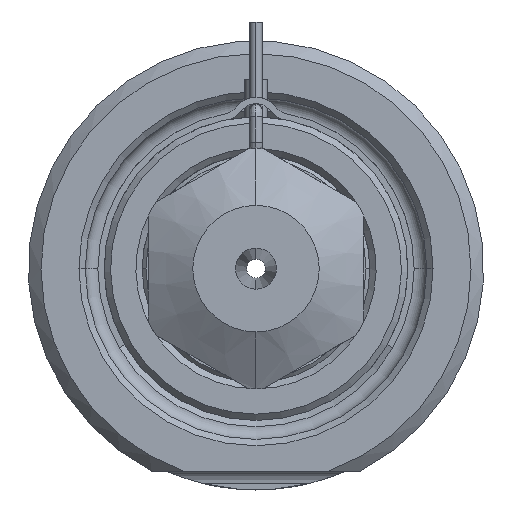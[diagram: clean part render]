
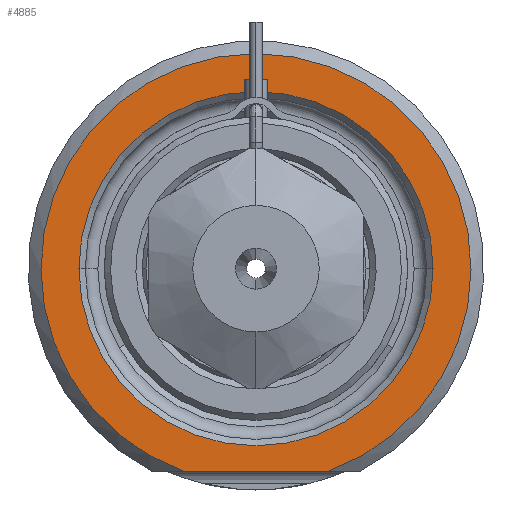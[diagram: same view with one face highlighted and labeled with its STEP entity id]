
A CAD part, front view. The second image highlights one B-rep face of the part: STEP entity #4885.
In plain terms, the highlighted planar face has unit normal (0, -1, 0).
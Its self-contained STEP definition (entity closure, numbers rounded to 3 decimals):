
#1472=DIRECTION('',(1.,0.,0.));
#1473=VECTOR('',#1472,11.489);
#1474=CARTESIAN_POINT('',(-5.745,0.,-16.));
#1475=LINE('',#1474,#1473);
#1476=CARTESIAN_POINT('',(0.,0.,0.));
#1477=DIRECTION('',(0.,1.,0.));
#1478=DIRECTION('',(-1.,0.,0.));
#1479=AXIS2_PLACEMENT_3D('',#1476,#1477,#1478);
#1481=CARTESIAN_POINT('',(0.,0.,0.));
#1482=DIRECTION('',(0.,1.,0.));
#1483=DIRECTION('',(1.,0.,0.));
#1484=AXIS2_PLACEMENT_3D('',#1481,#1482,#1483);
#1588=CARTESIAN_POINT('',(0.,0.,0.));
#1589=DIRECTION('',(0.,-1.,0.));
#1590=DIRECTION('',(0.338,0.,-0.941));
#1591=AXIS2_PLACEMENT_3D('',#1588,#1589,#1590);
#2536=CARTESIAN_POINT('',(-14.,0.,0.));
#2537=CARTESIAN_POINT('',(14.,0.,0.));
#2538=VERTEX_POINT('',#2536);
#2539=VERTEX_POINT('',#2537);
#2576=CARTESIAN_POINT('',(-5.745,0.,-16.));
#2577=CARTESIAN_POINT('',(5.745,0.,-16.));
#2578=VERTEX_POINT('',#2576);
#2579=VERTEX_POINT('',#2577);
#4869=CARTESIAN_POINT('',(0.,0.,0.));
#4870=DIRECTION('',(0.,-1.,0.));
#4871=DIRECTION('',(1.,0.,0.));
#4872=AXIS2_PLACEMENT_3D('',#4869,#4870,#4871);
#4873=PLANE('',#4872);
#4875=ORIENTED_EDGE('',*,*,#4874,.F.);
#4877=ORIENTED_EDGE('',*,*,#4876,.F.);
#4878=EDGE_LOOP('',(#4875,#4877));
#4879=FACE_OUTER_BOUND('',#4878,.F.);
#4881=ORIENTED_EDGE('',*,*,#4880,.F.);
#4882=ORIENTED_EDGE('',*,*,#4859,.F.);
#4883=EDGE_LOOP('',(#4881,#4882));
#4884=FACE_BOUND('',#4883,.F.);
#4885=ADVANCED_FACE('',(#4879,#4884),#4873,.T.);
#1480=CIRCLE('',#1479,14.);
#1485=CIRCLE('',#1484,14.);
#1592=CIRCLE('',#1591,17.);
#4859=EDGE_CURVE('',#2539,#2538,#1485,.T.);
#4874=EDGE_CURVE('',#2578,#2579,#1475,.T.);
#4876=EDGE_CURVE('',#2579,#2578,#1592,.T.);
#4880=EDGE_CURVE('',#2538,#2539,#1480,.T.);
